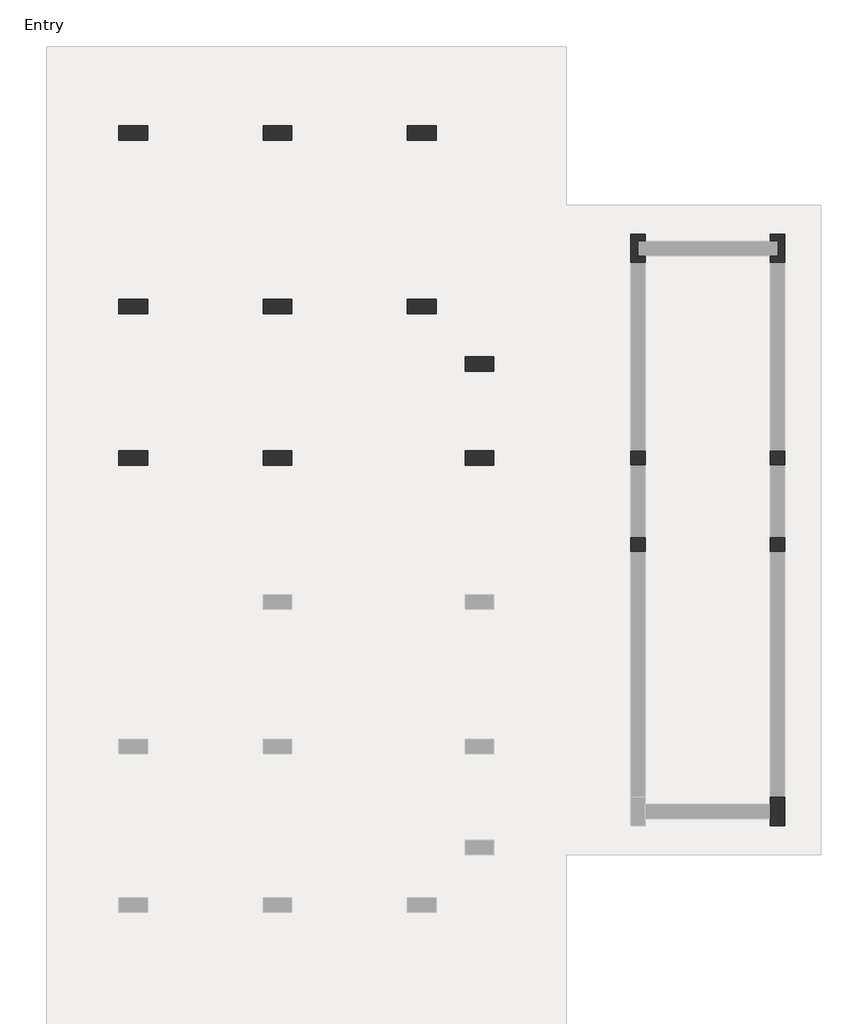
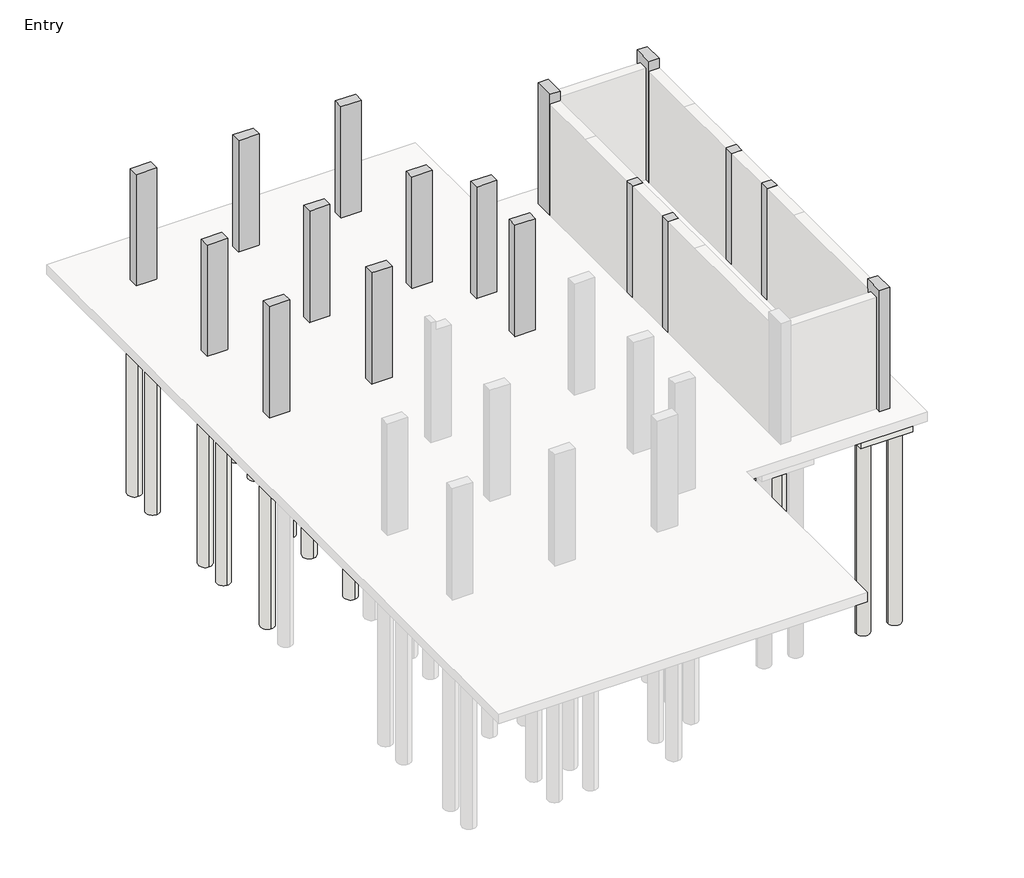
# One storey, part 2 of 2: 52 slabs, 17 columns.
"""IFC4 building model written with IfcOpenShell, lengths in millimetres."""

from ifc_helpers import new_model, si_unit, point, frame, frame_2d, origin, origin_with_axes, place, context, project, spatial, polyline, circle_curve, trimmed, segment, composite_curve, outline, extrude, faceted_brep, element, save

model = new_model("IFC4")

# Units and contexts
model_context = context("Model", 3, world=origin())
ifc_project = project(units=[si_unit("LENGTHUNIT", "METRE", prefix="MILLI")], contexts=[model_context])

# Site, building, storey
site = spatial("IfcSite", under=ifc_project)
building = spatial("IfcBuilding", under=site)
storey = spatial("IfcBuildingStorey", under=building, Name="Entry", Elevation=0.0)

# Columns
placement = place(None, origin())
element("IfcColumn", 1, ObjectType="Concrete-Rectangular-Column : 12 x 24", at=placement, inside=storey, context=model_context, shape_type="SweptSolid", body=[
    extrude(outline(polyline([(-28885.8572388, 23021.6740068), (-28276.2572388, 23021.6740068), (-28276.2572388, 22716.8740068), (-28885.8572388, 22716.8740068), (-28885.8572388, 23021.6740068)])), origin_with_axes(), (0.0, 0.0, 1.0), 3505.2),
])
element("IfcColumn", 2, ObjectType="Concrete-Rectangular-Column : 12 x 24", at=placement, inside=storey, context=model_context, shape_type="SweptSolid", body=[
    extrude(outline(polyline([(-25837.8572388, 23021.6740068), (-25228.2572388, 23021.6740068), (-25228.2572388, 22716.8740068), (-25837.8572388, 22716.8740068), (-25837.8572388, 23021.6740068)])), origin_with_axes(), (0.0, 0.0, 1.0), 3505.2),
])
element("IfcColumn", 3, ObjectType="Concrete-Rectangular-Column : 12 x 24", at=placement, inside=storey, context=model_context, shape_type="SweptSolid", body=[
    extrude(outline(polyline([(-22789.8572388, 23021.6740068), (-22180.2572388, 23021.6740068), (-22180.2572388, 22716.8740068), (-22789.8572388, 22716.8740068), (-22789.8572388, 23021.6740068)])), origin_with_axes(), (0.0, 0.0, 1.0), 3505.2),
])
element("IfcColumn", 4, ObjectType="Concrete-Rectangular-Column : 12 x 24", at=placement, inside=storey, context=model_context, shape_type="SweptSolid", body=[
    extrude(outline(polyline([(-28885.8572388, 19364.0740068), (-28276.2572388, 19364.0740068), (-28276.2572388, 19059.2740068), (-28885.8572388, 19059.2740068), (-28885.8572388, 19364.0740068)])), origin_with_axes(), (0.0, 0.0, 1.0), 3505.2),
])
element("IfcColumn", 5, ObjectType="Concrete-Rectangular-Column : 12 x 24", at=placement, inside=storey, context=model_context, shape_type="SweptSolid", body=[
    extrude(outline(polyline([(-25837.8572388, 19364.0740068), (-25228.2572388, 19364.0740068), (-25228.2572388, 19059.2740068), (-25837.8572388, 19059.2740068), (-25837.8572388, 19364.0740068)])), origin_with_axes(), (0.0, 0.0, 1.0), 3505.2),
])
element("IfcColumn", 6, ObjectType="Concrete-Rectangular-Column : 12 x 24", at=placement, inside=storey, context=model_context, shape_type="SweptSolid", body=[
    extrude(outline(polyline([(-22789.8572388, 19364.0740068), (-22180.2572388, 19364.0740068), (-22180.2572388, 19059.2740068), (-22789.8572388, 19059.2740068), (-22789.8572388, 19364.0740068)])), origin_with_axes(), (0.0, 0.0, 1.0), 3505.2),
])
element("IfcColumn", 7, ObjectType="Concrete-Rectangular-Column : 12 x 24", at=placement, inside=storey, context=model_context, shape_type="SweptSolid", body=[
    extrude(outline(polyline([(-21570.6572388, 18144.8740068), (-20961.0572388, 18144.8740068), (-20961.0572388, 17840.0740068), (-21570.6572388, 17840.0740068), (-21570.6572388, 18144.8740068)])), origin_with_axes(), (0.0, 0.0, 1.0), 3505.2),
])
element("IfcColumn", 8, ObjectType="Concrete-Rectangular-Column : 12 x 24", at=placement, inside=storey, context=model_context, shape_type="SweptSolid", body=[
    extrude(outline(polyline([(-28885.8572388, 16163.6740068), (-28276.2572388, 16163.6740068), (-28276.2572388, 15858.8740068), (-28885.8572388, 15858.8740068), (-28885.8572388, 16163.6740068)])), origin_with_axes(), (0.0, 0.0, 1.0), 3505.2),
])
element("IfcColumn", 9, ObjectType="Concrete-Rectangular-Column : 12 x 24", at=placement, inside=storey, context=model_context, shape_type="Brep", body=[
    faceted_brep([(-25837.8572388, 16163.6740068, 0.0), (-25228.2572388, 16163.6740068, 0.0), (-25228.2572388, 15858.8740068, 0.0), (-25837.8572388, 15858.8740068, 0.0), (-25837.8572388, 16163.6740068, 3505.2), (-25228.2572388, 16163.6740068, 3505.2), (-25228.2572388, 15858.8740068, 3505.2), (-25685.4572388, 15858.8740068, 3505.2), (-25837.8572388, 15858.8740068, 3505.2)], [[[0, 1, 2, 3]], [[1, 0, 4, 5]], [[2, 1, 5, 6]], [[3, 2, 6, 7, 8]], [[0, 3, 8, 4]], [[5, 4, 8, 7, 6]]]),
])
element("IfcColumn", 10, ObjectType="Concrete-Rectangular-Column : 12 x 24", at=placement, inside=storey, context=model_context, shape_type="SweptSolid", body=[
    extrude(outline(polyline([(-21570.6572388, 16163.6740068), (-20961.0572388, 16163.6740068), (-20961.0572388, 15858.8740068), (-21570.6572388, 15858.8740068), (-21570.6572388, 16163.6740068)])), origin_with_axes(), (0.0, 0.0, 1.0), 3505.2),
])
element("IfcColumn", 11, ObjectType="Concrete-Rectangular-Column : 12 x 24", at=placement, inside=storey, context=model_context, shape_type="SweptSolid", body=[
    extrude(outline(polyline([(-17760.6572388, 15858.8740068), (-18065.4572388, 15858.8740068), (-18065.4572388, 16163.6740068), (-17760.6572388, 16163.6740068), (-17760.6572388, 15858.8740068)])), origin_with_axes(), (0.0, 0.0, 1.0), 3505.2),
])
element("IfcColumn", 12, ObjectType="Concrete-Rectangular-Column : 12 x 24", at=placement, inside=storey, context=model_context, shape_type="SweptSolid", body=[
    extrude(outline(polyline([(-15119.0572388, 16163.6740068), (-14814.2572388, 16163.6740068), (-14814.2572388, 15858.8740068), (-15119.0572388, 15858.8740068), (-15119.0572388, 16163.6740068)])), origin_with_axes(), (0.0, 0.0, 1.0), 3505.2),
])
element("IfcColumn", 13, ObjectType="Concrete-Rectangular-Column : 12 x 24", at=placement, inside=storey, context=model_context, shape_type="SweptSolid", body=[
    extrude(outline(polyline([(-17760.6572388, 14030.0740068), (-18065.4572388, 14030.0740068), (-18065.4572388, 14334.8740068), (-17760.6572388, 14334.8740068), (-17760.6572388, 14030.0740068)])), origin_with_axes(), (0.0, 0.0, 1.0), 3505.2),
])
element("IfcColumn", 14, ObjectType="Concrete-Rectangular-Column : 12 x 24", at=placement, inside=storey, context=model_context, shape_type="SweptSolid", body=[
    extrude(outline(polyline([(-15119.0572388, 14334.8740068), (-14814.2572388, 14334.8740068), (-14814.2572388, 14030.0740068), (-15119.0572388, 14030.0740068), (-15119.0572388, 14334.8740068)])), origin_with_axes(), (0.0, 0.0, 1.0), 3505.2),
])
element("IfcColumn", 15, ObjectType="Concrete-Rectangular-Column : 12 x 24", at=placement, inside=storey, context=model_context, shape_type="Brep", body=[
    faceted_brep([(-18065.4572388, 20126.0740068, 0.0), (-18065.4572388, 20735.6740068, 0.0), (-17760.6572388, 20735.6740068, 0.0), (-17760.6572388, 20583.2740068, 0.0), (-17913.0572388, 20583.2740068, 0.0), (-17913.0572388, 20278.4740068, 0.0), (-17760.6572388, 20278.4740068, 0.0), (-17760.6572388, 20126.0740068, 0.0), (-18065.4572388, 20126.0740068, 3505.2), (-18065.4572388, 20126.0740068, 3810.0), (-18065.4572388, 20735.6740068, 3810.0), (-17760.6572388, 20735.6740068, 3810.0), (-17760.6572388, 20126.0740068, 3810.0), (-17760.6572388, 20126.0740068, 3505.2), (-17760.6572388, 20278.4740068, 3505.2), (-17760.6572388, 20583.2740068, 3505.2), (-17913.0572388, 20583.2740068, 3505.2), (-17913.0572388, 20278.4740068, 3505.2)], [[[0, 1, 2, 3, 4, 5, 6, 7]], [[1, 0, 8, 9, 10]], [[2, 1, 10, 11]], [[2, 11, 12, 13, 7, 6, 14, 15, 3]], [[0, 7, 13, 12, 9, 8]], [[10, 9, 12, 11]], [[16, 4, 3, 15]], [[5, 17, 14, 6]], [[4, 16, 17, 5]], [[17, 16, 15, 14]]]),
])
element("IfcColumn", 16, ObjectType="Concrete-Rectangular-Column : 12 x 24", at=placement, inside=storey, context=model_context, shape_type="Brep", body=[
    faceted_brep([(-15119.0572388, 20735.6740068, 0.0), (-14814.2572388, 20735.6740068, 0.0), (-14814.2572388, 20126.0740068, 0.0), (-15119.0572388, 20126.0740068, 0.0), (-15119.0572388, 20278.4740068, 0.0), (-14966.6572388, 20278.4740068, 0.0), (-14966.6572388, 20583.2740068, 0.0), (-15119.0572388, 20583.2740068, 0.0), (-15119.0572388, 20126.0740068, 3810.0), (-15119.0572388, 20735.6740068, 3810.0), (-15119.0572388, 20583.2740068, 3505.2), (-15119.0572388, 20278.4740068, 3505.2), (-15119.0572388, 20126.0740068, 3505.2), (-14814.2572388, 20735.6740068, 3810.0), (-14814.2572388, 20126.0740068, 3810.0), (-14814.2572388, 20126.0740068, 3505.2), (-14966.6572388, 20583.2740068, 3505.2), (-14966.6572388, 20278.4740068, 3505.2)], [[[0, 1, 2, 3, 4, 5, 6, 7]], [[8, 9, 0, 7, 10, 11, 4, 3, 12]], [[1, 0, 9, 13]], [[2, 1, 13, 14, 15]], [[3, 2, 15, 14, 8, 12]], [[9, 8, 14, 13]], [[6, 16, 10, 7]], [[17, 5, 4, 11]], [[16, 17, 11, 10]], [[16, 6, 5, 17]]]),
])
element("IfcColumn", 17, ObjectType="Concrete-Rectangular-Column : 12 x 24", at=placement, inside=storey, context=model_context, shape_type="Brep", body=[
    faceted_brep([(-15119.0572388, 8238.8740068, 0.0), (-15119.0572388, 8391.2740068, 0.0), (-15119.0572388, 8696.0740068, 0.0), (-15119.0572388, 8848.4740068, 0.0), (-14814.2572388, 8848.4740068, 0.0), (-14814.2572388, 8238.8740068, 0.0), (-15119.0572388, 8238.8740068, 3810.0), (-15119.0572388, 8848.4740068, 3810.0), (-15119.0572388, 8848.4740068, 3505.2), (-14814.2572388, 8848.4740068, 3810.0), (-14814.2572388, 8848.4740068, 3505.2), (-14814.2572388, 8238.8740068, 3810.0)], [[[0, 1, 2, 3, 4, 5]], [[6, 7, 8, 3, 2, 1, 0]], [[7, 9, 10, 4, 3, 8]], [[9, 11, 5, 4, 10]], [[11, 6, 0, 5]], [[6, 11, 9, 7]]]),
])

# Slabs
element("IfcSlab", 18, ObjectType="Pile Cap-2 Pile : 31\"x61\"x35\"", at=placement, inside=storey, context=model_context, shape_type="SweptSolid", body=[
    extrude(outline(polyline([(-28987.4572388, 19986.3740068), (-28174.6572388, 19986.3740068), (-28174.6572388, 18436.9740068), (-28987.4572388, 18436.9740068), (-28987.4572388, 19986.3740068)])), frame((0.0, 0.0, -889.0), z_axis=(0.0, 0.0, 1.0), x_axis=(1.0, 0.0, 0.0)), (0.0, 0.0, 1.0), 584.2),
])
element("IfcSlab", 19, ObjectType="Pile Cap-2 Pile : 31\"x61\"x35\"", at=placement, inside=storey, context=model_context, shape_type="SweptSolid", body=[
    extrude(outline(polyline([(-28987.4572388, 23643.9740068), (-28174.6572388, 23643.9740068), (-28174.6572388, 22094.5740068), (-28987.4572388, 22094.5740068), (-28987.4572388, 23643.9740068)])), frame((0.0, 0.0, -889.0), z_axis=(0.0, 0.0, 1.0), x_axis=(1.0, 0.0, 0.0)), (0.0, 0.0, 1.0), 584.2),
])
element("IfcSlab", 20, ObjectType="Pile Cap-2 Pile : 31\"x61\"x35\"", at=placement, inside=storey, context=model_context, shape_type="SweptSolid", body=[
    extrude(outline(polyline([(-28987.4572388, 16785.9740068), (-28174.6572388, 16785.9740068), (-28174.6572388, 15236.5740068), (-28987.4572388, 15236.5740068), (-28987.4572388, 16785.9740068)])), frame((0.0, 0.0, -889.0), z_axis=(0.0, 0.0, 1.0), x_axis=(1.0, 0.0, 0.0)), (0.0, 0.0, 1.0), 584.2),
])
element("IfcSlab", 21, ObjectType="Pile Cap-2 Pile : 31\"x61\"x35\"", at=placement, inside=storey, context=model_context, shape_type="SweptSolid", body=[
    extrude(outline(polyline([(-21672.2572388, 16785.9740068), (-20859.4572388, 16785.9740068), (-20859.4572388, 15236.5740068), (-21672.2572388, 15236.5740068), (-21672.2572388, 16785.9740068)])), frame((0.0, 0.0, -889.0), z_axis=(0.0, 0.0, 1.0), x_axis=(1.0, 0.0, 0.0)), (0.0, 0.0, 1.0), 584.2),
])
element("IfcSlab", 22, ObjectType="Pile Cap-2 Pile : 31\"x61\"x35\"", at=placement, inside=storey, context=model_context, shape_type="SweptSolid", body=[
    extrude(outline(polyline([(-22891.4572388, 19986.3740068), (-22078.6572388, 19986.3740068), (-22078.6572388, 18436.9740068), (-22891.4572388, 18436.9740068), (-22891.4572388, 19986.3740068)])), frame((0.0, 0.0, -889.0), z_axis=(0.0, 0.0, 1.0), x_axis=(1.0, 0.0, 0.0)), (0.0, 0.0, 1.0), 584.2),
])
element("IfcSlab", 23, ObjectType="Pile Cap-2 Pile : 31\"x61\"x35\"", at=placement, inside=storey, context=model_context, shape_type="SweptSolid", body=[
    extrude(outline(polyline([(-22891.4572388, 23643.9740068), (-22078.6572388, 23643.9740068), (-22078.6572388, 22094.5740068), (-22891.4572388, 22094.5740068), (-22891.4572388, 23643.9740068)])), frame((0.0, 0.0, -889.0), z_axis=(0.0, 0.0, 1.0), x_axis=(1.0, 0.0, 0.0)), (0.0, 0.0, 1.0), 584.2),
])
element("IfcSlab", 24, ObjectType="Pile Cap-2 Pile : 31\"x61\"x35\"", at=placement, inside=storey, context=model_context, shape_type="SweptSolid", body=[
    extrude(outline(polyline([(-25939.4572388, 23643.9740068), (-25126.6572388, 23643.9740068), (-25126.6572388, 22094.5740068), (-25939.4572388, 22094.5740068), (-25939.4572388, 23643.9740068)])), frame((0.0, 0.0, -889.0), z_axis=(0.0, 0.0, 1.0), x_axis=(1.0, 0.0, 0.0)), (0.0, 0.0, 1.0), 584.2),
])
element("IfcSlab", 25, ObjectType="Pile Cap-2 Pile : 31\"x61\"x35\"", at=placement, inside=storey, context=model_context, shape_type="SweptSolid", body=[
    extrude(outline(polyline([(-17138.3572388, 20837.2740068), (-17138.3572388, 20024.4740068), (-18687.7572388, 20024.4740068), (-18687.7572388, 20837.2740068), (-17138.3572388, 20837.2740068)])), frame((0.0, 0.0, -889.0), z_axis=(0.0, 0.0, 1.0), x_axis=(1.0, 0.0, 0.0)), (0.0, 0.0, 1.0), 584.2),
])
element("IfcSlab", 26, ObjectType="Pile Cap-2 Pile : 31\"x61\"x35\"", at=placement, inside=storey, context=model_context, shape_type="SweptSolid", body=[
    extrude(outline(polyline([(-14191.9572388, 20837.2740068), (-14191.9572388, 20024.4740068), (-15741.3572388, 20024.4740068), (-15741.3572388, 20837.2740068), (-14191.9572388, 20837.2740068)])), frame((0.0, 0.0, -889.0), z_axis=(0.0, 0.0, 1.0), x_axis=(1.0, 0.0, 0.0)), (0.0, 0.0, 1.0), 584.2),
])
element("IfcSlab", 27, ObjectType="Pile Cap-2 Pile : 31\"x61\"x35\"", at=placement, inside=storey, context=model_context, shape_type="SweptSolid", body=[
    extrude(outline(polyline([(-15373.0572388, 16785.9740068), (-14560.2572388, 16785.9740068), (-14560.2572388, 15236.5740068), (-15373.0572388, 15236.5740068), (-15373.0572388, 16785.9740068)])), frame((0.0, 0.0, -889.0), z_axis=(0.0, 0.0, 1.0), x_axis=(1.0, 0.0, 0.0)), (0.0, 0.0, 1.0), 584.2),
])
element("IfcSlab", 28, ObjectType="Pile Cap-2 Pile : 31\"x61\"x35\"", at=placement, inside=storey, context=model_context, shape_type="SweptSolid", body=[
    extrude(outline(polyline([(-18319.4572388, 16785.9740068), (-17506.6572388, 16785.9740068), (-17506.6572388, 15236.5740068), (-18319.4572388, 15236.5740068), (-18319.4572388, 16785.9740068)])), frame((0.0, 0.0, -889.0), z_axis=(0.0, 0.0, 1.0), x_axis=(1.0, 0.0, 0.0)), (0.0, 0.0, 1.0), 584.2),
])
element("IfcSlab", 29, ObjectType="Pile Cap-2 Pile : 31\"x61\"x35\"", at=placement, inside=storey, context=model_context, shape_type="SweptSolid", body=[
    extrude(outline(polyline([(-17506.6572388, 13407.7740068), (-18319.4572388, 13407.7740068), (-18319.4572388, 14957.1740068), (-17506.6572388, 14957.1740068), (-17506.6572388, 13407.7740068)])), frame((0.0, 0.0, -889.0), z_axis=(0.0, 0.0, 1.0), x_axis=(1.0, 0.0, 0.0)), (0.0, 0.0, 1.0), 584.2),
])
element("IfcSlab", 30, ObjectType="Pile Cap-2 Pile : 31\"x61\"x35\"", at=placement, inside=storey, context=model_context, shape_type="SweptSolid", body=[
    extrude(outline(polyline([(-15373.0572388, 14957.1740068), (-14560.2572388, 14957.1740068), (-14560.2572388, 13407.7740068), (-15373.0572388, 13407.7740068), (-15373.0572388, 14957.1740068)])), frame((0.0, 0.0, -889.0), z_axis=(0.0, 0.0, 1.0), x_axis=(1.0, 0.0, 0.0)), (0.0, 0.0, 1.0), 584.2),
])
element("IfcSlab", 31, ObjectType="Pile Cap-2 Pile : 31\"x61\"x35\"", at=placement, inside=storey, context=model_context, shape_type="SweptSolid", body=[
    extrude(outline(polyline([(-14191.9572388, 8950.0740068), (-14191.9572388, 8137.2740068), (-15741.3572388, 8137.2740068), (-15741.3572388, 8950.0740068), (-14191.9572388, 8950.0740068)])), frame((0.0, 0.0, -889.0), z_axis=(0.0, 0.0, 1.0), x_axis=(1.0, 0.0, 0.0)), (0.0, 0.0, 1.0), 584.2),
])
element("IfcSlab", 32, ObjectType="Pile Cap-2 Pile : 31\"x61\"x35\"", at=placement, inside=storey, context=model_context, shape_type="SweptSolid", body=[
    extrude(outline(polyline([(-21672.2572388, 18767.1740068), (-20859.4572388, 18767.1740068), (-20859.4572388, 17217.7740068), (-21672.2572388, 17217.7740068), (-21672.2572388, 18767.1740068)])), frame((0.0, 0.0, -889.0), z_axis=(0.0, 0.0, 1.0), x_axis=(1.0, 0.0, 0.0)), (0.0, 0.0, 1.0), 584.2),
])
element("IfcSlab", 33, ObjectType="Pile Cap-4 Pile : 72\" x 72\" x35\"", at=placement, inside=storey, context=model_context, shape_type="SweptSolid", body=[
    extrude(outline(polyline([(-26447.4572388, 20126.0740068), (-24618.6572388, 20126.0740068), (-24618.6572388, 18297.2740068), (-26447.4572388, 18297.2740068), (-26447.4572388, 20126.0740068)])), frame((0.0, 0.0, -889.0), z_axis=(0.0, 0.0, 1.0), x_axis=(1.0, 0.0, 0.0)), (0.0, 0.0, 1.0), 584.2),
])
element("IfcSlab", 34, ObjectType="Pile Cap-4 Pile : 72\" x 72\" x35\"", at=placement, inside=storey, context=model_context, shape_type="SweptSolid", body=[
    extrude(outline(polyline([(-26447.4572388, 16925.6740068), (-24618.6572388, 16925.6740068), (-24618.6572388, 15096.8740068), (-26447.4572388, 15096.8740068), (-26447.4572388, 16925.6740068)])), frame((0.0, 0.0, -889.0), z_axis=(0.0, 0.0, 1.0), x_axis=(1.0, 0.0, 0.0)), (0.0, 0.0, 1.0), 584.2),
])
element("IfcSlab", 35, ObjectType="Pile-Steel Pipe : 16\" Diameter", at=placement, inside=storey, context=model_context, shape_type="SweptSolid", body=[
    extrude(outline(composite_curve([segment(trimmed(circle_curve(frame_2d((-26066.4572388, 18678.2740068)), 203.2), [point((-26066.4572388, 18475.0740068))], [point((-26066.4572388, 18881.4740068))], False, "CARTESIAN"), True, "CONTINUOUS"), segment(trimmed(circle_curve(frame_2d((-26066.4572388, 18678.2740068)), 203.2), [point((-26066.4572388, 18881.4740068))], [point((-26066.4572388, 18475.0740068))], False, "CARTESIAN"), True, "CONTINUOUS")], self_intersect=False)), frame((0.0, 0.0, -6985.0), z_axis=(0.0, 0.0, 1.0), x_axis=(1.0, 0.0, 0.0)), (0.0, 0.0, 1.0), 6096.0),
])
element("IfcSlab", 36, ObjectType="Pile-Steel Pipe : 16\" Diameter", at=placement, inside=storey, context=model_context, shape_type="SweptSolid", body=[
    extrude(outline(composite_curve([segment(trimmed(circle_curve(frame_2d((-24999.6572388, 18678.2740068)), 203.2), [point((-24999.6572388, 18475.0740068))], [point((-24999.6572388, 18881.4740068))], False, "CARTESIAN"), True, "CONTINUOUS"), segment(trimmed(circle_curve(frame_2d((-24999.6572388, 18678.2740068)), 203.2), [point((-24999.6572388, 18881.4740068))], [point((-24999.6572388, 18475.0740068))], False, "CARTESIAN"), True, "CONTINUOUS")], self_intersect=False)), frame((0.0, 0.0, -6985.0), z_axis=(0.0, 0.0, 1.0), x_axis=(1.0, 0.0, 0.0)), (0.0, 0.0, 1.0), 6096.0),
])
element("IfcSlab", 37, ObjectType="Pile-Steel Pipe : 16\" Diameter", at=placement, inside=storey, context=model_context, shape_type="SweptSolid", body=[
    extrude(outline(composite_curve([segment(trimmed(circle_curve(frame_2d((-24999.6572388, 19745.0740068)), 203.2), [point((-24999.6572388, 19541.8740068))], [point((-24999.6572388, 19948.2740068))], False, "CARTESIAN"), True, "CONTINUOUS"), segment(trimmed(circle_curve(frame_2d((-24999.6572388, 19745.0740068)), 203.2), [point((-24999.6572388, 19948.2740068))], [point((-24999.6572388, 19541.8740068))], False, "CARTESIAN"), True, "CONTINUOUS")], self_intersect=False)), frame((0.0, 0.0, -6985.0), z_axis=(0.0, 0.0, 1.0), x_axis=(1.0, 0.0, 0.0)), (0.0, 0.0, 1.0), 6096.0),
])
element("IfcSlab", 38, ObjectType="Pile-Steel Pipe : 16\" Diameter", at=placement, inside=storey, context=model_context, shape_type="SweptSolid", body=[
    extrude(outline(composite_curve([segment(trimmed(circle_curve(frame_2d((-26066.4572388, 19745.0740068)), 203.2), [point((-26066.4572388, 19541.8740068))], [point((-26066.4572388, 19948.2740068))], False, "CARTESIAN"), True, "CONTINUOUS"), segment(trimmed(circle_curve(frame_2d((-26066.4572388, 19745.0740068)), 203.2), [point((-26066.4572388, 19948.2740068))], [point((-26066.4572388, 19541.8740068))], False, "CARTESIAN"), True, "CONTINUOUS")], self_intersect=False)), frame((0.0, 0.0, -6985.0), z_axis=(0.0, 0.0, 1.0), x_axis=(1.0, 0.0, 0.0)), (0.0, 0.0, 1.0), 6096.0),
])
element("IfcSlab", 39, ObjectType="Pile-Steel Pipe : 16\" Diameter", at=placement, inside=storey, context=model_context, shape_type="SweptSolid", body=[
    extrude(outline(composite_curve([segment(trimmed(circle_curve(frame_2d((-24999.6572388, 16544.6740068)), 203.2), [point((-24999.6572388, 16341.4740068))], [point((-24999.6572388, 16747.8740068))], False, "CARTESIAN"), True, "CONTINUOUS"), segment(trimmed(circle_curve(frame_2d((-24999.6572388, 16544.6740068)), 203.2), [point((-24999.6572388, 16747.8740068))], [point((-24999.6572388, 16341.4740068))], False, "CARTESIAN"), True, "CONTINUOUS")], self_intersect=False)), frame((0.0, 0.0, -6985.0), z_axis=(0.0, 0.0, 1.0), x_axis=(1.0, 0.0, 0.0)), (0.0, 0.0, 1.0), 6096.0),
])
element("IfcSlab", 40, ObjectType="Pile-Steel Pipe : 16\" Diameter", at=placement, inside=storey, context=model_context, shape_type="SweptSolid", body=[
    extrude(outline(composite_curve([segment(trimmed(circle_curve(frame_2d((-26066.4572388, 16544.6740068)), 203.2), [point((-26066.4572388, 16341.4740068))], [point((-26066.4572388, 16747.8740068))], False, "CARTESIAN"), True, "CONTINUOUS"), segment(trimmed(circle_curve(frame_2d((-26066.4572388, 16544.6740068)), 203.2), [point((-26066.4572388, 16747.8740068))], [point((-26066.4572388, 16341.4740068))], False, "CARTESIAN"), True, "CONTINUOUS")], self_intersect=False)), frame((0.0, 0.0, -6985.0), z_axis=(0.0, 0.0, 1.0), x_axis=(1.0, 0.0, 0.0)), (0.0, 0.0, 1.0), 6096.0),
])
element("IfcSlab", 41, ObjectType="Pile-Steel Pipe : 16\" Diameter", at=placement, inside=storey, context=model_context, shape_type="SweptSolid", body=[
    extrude(outline(composite_curve([segment(trimmed(circle_curve(frame_2d((-28581.0572388, 18741.7740068)), 203.2), [point((-28581.0572388, 18538.5740068))], [point((-28581.0572388, 18944.9740068))], False, "CARTESIAN"), True, "CONTINUOUS"), segment(trimmed(circle_curve(frame_2d((-28581.0572388, 18741.7740068)), 203.2), [point((-28581.0572388, 18944.9740068))], [point((-28581.0572388, 18538.5740068))], False, "CARTESIAN"), True, "CONTINUOUS")], self_intersect=False)), frame((0.0, 0.0, -6985.0), z_axis=(0.0, 0.0, 1.0), x_axis=(1.0, 0.0, 0.0)), (0.0, 0.0, 1.0), 6096.0),
])
element("IfcSlab", 42, ObjectType="Pile-Steel Pipe : 16\" Diameter", at=placement, inside=storey, context=model_context, shape_type="SweptSolid", body=[
    extrude(outline(composite_curve([segment(trimmed(circle_curve(frame_2d((-28581.0572388, 19681.5740068)), 203.2), [point((-28581.0572388, 19478.3740068))], [point((-28581.0572388, 19884.7740068))], False, "CARTESIAN"), True, "CONTINUOUS"), segment(trimmed(circle_curve(frame_2d((-28581.0572388, 19681.5740068)), 203.2), [point((-28581.0572388, 19884.7740068))], [point((-28581.0572388, 19478.3740068))], False, "CARTESIAN"), True, "CONTINUOUS")], self_intersect=False)), frame((0.0, 0.0, -6985.0), z_axis=(0.0, 0.0, 1.0), x_axis=(1.0, 0.0, 0.0)), (0.0, 0.0, 1.0), 6096.0),
])
element("IfcSlab", 43, ObjectType="Pile-Steel Pipe : 16\" Diameter", at=placement, inside=storey, context=model_context, shape_type="SweptSolid", body=[
    extrude(outline(composite_curve([segment(trimmed(circle_curve(frame_2d((-28581.0572388, 22399.3740068)), 203.2), [point((-28581.0572388, 22196.1740068))], [point((-28581.0572388, 22602.5740068))], False, "CARTESIAN"), True, "CONTINUOUS"), segment(trimmed(circle_curve(frame_2d((-28581.0572388, 22399.3740068)), 203.2), [point((-28581.0572388, 22602.5740068))], [point((-28581.0572388, 22196.1740068))], False, "CARTESIAN"), True, "CONTINUOUS")], self_intersect=False)), frame((0.0, 0.0, -6985.0), z_axis=(0.0, 0.0, 1.0), x_axis=(1.0, 0.0, 0.0)), (0.0, 0.0, 1.0), 6096.0),
])
element("IfcSlab", 44, ObjectType="Pile-Steel Pipe : 16\" Diameter", at=placement, inside=storey, context=model_context, shape_type="SweptSolid", body=[
    extrude(outline(composite_curve([segment(trimmed(circle_curve(frame_2d((-28581.0572388, 23339.1740068)), 203.2), [point((-28581.0572388, 23135.9740068))], [point((-28581.0572388, 23542.3740068))], False, "CARTESIAN"), True, "CONTINUOUS"), segment(trimmed(circle_curve(frame_2d((-28581.0572388, 23339.1740068)), 203.2), [point((-28581.0572388, 23542.3740068))], [point((-28581.0572388, 23135.9740068))], False, "CARTESIAN"), True, "CONTINUOUS")], self_intersect=False)), frame((0.0, 0.0, -6985.0), z_axis=(0.0, 0.0, 1.0), x_axis=(1.0, 0.0, 0.0)), (0.0, 0.0, 1.0), 6096.0),
])
element("IfcSlab", 45, ObjectType="Pile-Steel Pipe : 16\" Diameter", at=placement, inside=storey, context=model_context, shape_type="SweptSolid", body=[
    extrude(outline(composite_curve([segment(trimmed(circle_curve(frame_2d((-28581.0572388, 16481.1740068)), 203.2), [point((-28581.0572388, 16277.9740068))], [point((-28581.0572388, 16684.3740068))], False, "CARTESIAN"), True, "CONTINUOUS"), segment(trimmed(circle_curve(frame_2d((-28581.0572388, 16481.1740068)), 203.2), [point((-28581.0572388, 16684.3740068))], [point((-28581.0572388, 16277.9740068))], False, "CARTESIAN"), True, "CONTINUOUS")], self_intersect=False)), frame((0.0, 0.0, -6985.0), z_axis=(0.0, 0.0, 1.0), x_axis=(1.0, 0.0, 0.0)), (0.0, 0.0, 1.0), 6096.0),
])
element("IfcSlab", 46, ObjectType="Pile-Steel Pipe : 16\" Diameter", at=placement, inside=storey, context=model_context, shape_type="SweptSolid", body=[
    extrude(outline(composite_curve([segment(trimmed(circle_curve(frame_2d((-21265.8572388, 15541.3740068)), 203.2), [point((-21265.8572388, 15338.1740068))], [point((-21265.8572388, 15744.5740068))], False, "CARTESIAN"), True, "CONTINUOUS"), segment(trimmed(circle_curve(frame_2d((-21265.8572388, 15541.3740068)), 203.2), [point((-21265.8572388, 15744.5740068))], [point((-21265.8572388, 15338.1740068))], False, "CARTESIAN"), True, "CONTINUOUS")], self_intersect=False)), frame((0.0, 0.0, -6985.0), z_axis=(0.0, 0.0, 1.0), x_axis=(1.0, 0.0, 0.0)), (0.0, 0.0, 1.0), 6096.0),
])
element("IfcSlab", 47, ObjectType="Pile-Steel Pipe : 16\" Diameter", at=placement, inside=storey, context=model_context, shape_type="SweptSolid", body=[
    extrude(outline(composite_curve([segment(trimmed(circle_curve(frame_2d((-21265.8572388, 16481.1740068)), 203.2), [point((-21265.8572388, 16277.9740068))], [point((-21265.8572388, 16684.3740068))], False, "CARTESIAN"), True, "CONTINUOUS"), segment(trimmed(circle_curve(frame_2d((-21265.8572388, 16481.1740068)), 203.2), [point((-21265.8572388, 16684.3740068))], [point((-21265.8572388, 16277.9740068))], False, "CARTESIAN"), True, "CONTINUOUS")], self_intersect=False)), frame((0.0, 0.0, -6985.0), z_axis=(0.0, 0.0, 1.0), x_axis=(1.0, 0.0, 0.0)), (0.0, 0.0, 1.0), 6096.0),
])
element("IfcSlab", 48, ObjectType="Pile-Steel Pipe : 16\" Diameter", at=placement, inside=storey, context=model_context, shape_type="SweptSolid", body=[
    extrude(outline(composite_curve([segment(trimmed(circle_curve(frame_2d((-22485.0572388, 18741.7740068)), 203.2), [point((-22485.0572388, 18538.5740068))], [point((-22485.0572388, 18944.9740068))], False, "CARTESIAN"), True, "CONTINUOUS"), segment(trimmed(circle_curve(frame_2d((-22485.0572388, 18741.7740068)), 203.2), [point((-22485.0572388, 18944.9740068))], [point((-22485.0572388, 18538.5740068))], False, "CARTESIAN"), True, "CONTINUOUS")], self_intersect=False)), frame((0.0, 0.0, -6985.0), z_axis=(0.0, 0.0, 1.0), x_axis=(1.0, 0.0, 0.0)), (0.0, 0.0, 1.0), 6096.0),
])
element("IfcSlab", 49, ObjectType="Pile-Steel Pipe : 16\" Diameter", at=placement, inside=storey, context=model_context, shape_type="SweptSolid", body=[
    extrude(outline(composite_curve([segment(trimmed(circle_curve(frame_2d((-22485.0572388, 19681.5740068)), 203.2), [point((-22485.0572388, 19478.3740068))], [point((-22485.0572388, 19884.7740068))], False, "CARTESIAN"), True, "CONTINUOUS"), segment(trimmed(circle_curve(frame_2d((-22485.0572388, 19681.5740068)), 203.2), [point((-22485.0572388, 19884.7740068))], [point((-22485.0572388, 19478.3740068))], False, "CARTESIAN"), True, "CONTINUOUS")], self_intersect=False)), frame((0.0, 0.0, -6985.0), z_axis=(0.0, 0.0, 1.0), x_axis=(1.0, 0.0, 0.0)), (0.0, 0.0, 1.0), 6096.0),
])
element("IfcSlab", 50, ObjectType="Pile-Steel Pipe : 16\" Diameter", at=placement, inside=storey, context=model_context, shape_type="SweptSolid", body=[
    extrude(outline(composite_curve([segment(trimmed(circle_curve(frame_2d((-22485.0572388, 22399.3740068)), 203.2), [point((-22485.0572388, 22196.1740068))], [point((-22485.0572388, 22602.5740068))], False, "CARTESIAN"), True, "CONTINUOUS"), segment(trimmed(circle_curve(frame_2d((-22485.0572388, 22399.3740068)), 203.2), [point((-22485.0572388, 22602.5740068))], [point((-22485.0572388, 22196.1740068))], False, "CARTESIAN"), True, "CONTINUOUS")], self_intersect=False)), frame((0.0, 0.0, -6985.0), z_axis=(0.0, 0.0, 1.0), x_axis=(1.0, 0.0, 0.0)), (0.0, 0.0, 1.0), 6096.0),
])
element("IfcSlab", 51, ObjectType="Pile-Steel Pipe : 16\" Diameter", at=placement, inside=storey, context=model_context, shape_type="SweptSolid", body=[
    extrude(outline(composite_curve([segment(trimmed(circle_curve(frame_2d((-22485.0572388, 23339.1740068)), 203.2), [point((-22485.0572388, 23135.9740068))], [point((-22485.0572388, 23542.3740068))], False, "CARTESIAN"), True, "CONTINUOUS"), segment(trimmed(circle_curve(frame_2d((-22485.0572388, 23339.1740068)), 203.2), [point((-22485.0572388, 23542.3740068))], [point((-22485.0572388, 23135.9740068))], False, "CARTESIAN"), True, "CONTINUOUS")], self_intersect=False)), frame((0.0, 0.0, -6985.0), z_axis=(0.0, 0.0, 1.0), x_axis=(1.0, 0.0, 0.0)), (0.0, 0.0, 1.0), 6096.0),
])
element("IfcSlab", 52, ObjectType="Pile-Steel Pipe : 16\" Diameter", at=placement, inside=storey, context=model_context, shape_type="SweptSolid", body=[
    extrude(outline(composite_curve([segment(trimmed(circle_curve(frame_2d((-25533.0572388, 22399.3740068)), 203.2), [point((-25533.0572388, 22196.1740068))], [point((-25533.0572388, 22602.5740068))], False, "CARTESIAN"), True, "CONTINUOUS"), segment(trimmed(circle_curve(frame_2d((-25533.0572388, 22399.3740068)), 203.2), [point((-25533.0572388, 22602.5740068))], [point((-25533.0572388, 22196.1740068))], False, "CARTESIAN"), True, "CONTINUOUS")], self_intersect=False)), frame((0.0, 0.0, -6985.0), z_axis=(0.0, 0.0, 1.0), x_axis=(1.0, 0.0, 0.0)), (0.0, 0.0, 1.0), 6096.0),
])
element("IfcSlab", 53, ObjectType="Pile-Steel Pipe : 16\" Diameter", at=placement, inside=storey, context=model_context, shape_type="SweptSolid", body=[
    extrude(outline(composite_curve([segment(trimmed(circle_curve(frame_2d((-25533.0572388, 23339.1740068)), 203.2), [point((-25533.0572388, 23135.9740068))], [point((-25533.0572388, 23542.3740068))], False, "CARTESIAN"), True, "CONTINUOUS"), segment(trimmed(circle_curve(frame_2d((-25533.0572388, 23339.1740068)), 203.2), [point((-25533.0572388, 23542.3740068))], [point((-25533.0572388, 23135.9740068))], False, "CARTESIAN"), True, "CONTINUOUS")], self_intersect=False)), frame((0.0, 0.0, -6985.0), z_axis=(0.0, 0.0, 1.0), x_axis=(1.0, 0.0, 0.0)), (0.0, 0.0, 1.0), 6096.0),
])
element("IfcSlab", 54, ObjectType="Pile-Steel Pipe : 16\" Diameter", at=placement, inside=storey, context=model_context, shape_type="SweptSolid", body=[
    extrude(outline(composite_curve([segment(trimmed(circle_curve(frame_2d((-18382.9572388, 20430.8740068)), 203.2), [point((-18586.1572388, 20430.8740068))], [point((-18179.7572388, 20430.8740068))], False, "CARTESIAN"), True, "CONTINUOUS"), segment(trimmed(circle_curve(frame_2d((-18382.9572388, 20430.8740068)), 203.2), [point((-18179.7572388, 20430.8740068))], [point((-18586.1572388, 20430.8740068))], False, "CARTESIAN"), True, "CONTINUOUS")], self_intersect=False)), frame((0.0, 0.0, -6985.0), z_axis=(0.0, 0.0, 1.0), x_axis=(1.0, 0.0, 0.0)), (0.0, 0.0, 1.0), 6096.0),
])
element("IfcSlab", 55, ObjectType="Pile-Steel Pipe : 16\" Diameter", at=placement, inside=storey, context=model_context, shape_type="SweptSolid", body=[
    extrude(outline(composite_curve([segment(trimmed(circle_curve(frame_2d((-17443.1572388, 20430.8740068)), 203.2), [point((-17646.3572388, 20430.8740068))], [point((-17239.9572388, 20430.8740068))], False, "CARTESIAN"), True, "CONTINUOUS"), segment(trimmed(circle_curve(frame_2d((-17443.1572388, 20430.8740068)), 203.2), [point((-17239.9572388, 20430.8740068))], [point((-17646.3572388, 20430.8740068))], False, "CARTESIAN"), True, "CONTINUOUS")], self_intersect=False)), frame((0.0, 0.0, -6985.0), z_axis=(0.0, 0.0, 1.0), x_axis=(1.0, 0.0, 0.0)), (0.0, 0.0, 1.0), 6096.0),
])
element("IfcSlab", 56, ObjectType="Pile-Steel Pipe : 16\" Diameter", at=placement, inside=storey, context=model_context, shape_type="SweptSolid", body=[
    extrude(outline(composite_curve([segment(trimmed(circle_curve(frame_2d((-15436.5572388, 20430.8740068)), 203.2), [point((-15639.7572388, 20430.8740068))], [point((-15233.3572388, 20430.8740068))], False, "CARTESIAN"), True, "CONTINUOUS"), segment(trimmed(circle_curve(frame_2d((-15436.5572388, 20430.8740068)), 203.2), [point((-15233.3572388, 20430.8740068))], [point((-15639.7572388, 20430.8740068))], False, "CARTESIAN"), True, "CONTINUOUS")], self_intersect=False)), frame((0.0, 0.0, -6985.0), z_axis=(0.0, 0.0, 1.0), x_axis=(1.0, 0.0, 0.0)), (0.0, 0.0, 1.0), 6096.0),
])
element("IfcSlab", 57, ObjectType="Pile-Steel Pipe : 16\" Diameter", at=placement, inside=storey, context=model_context, shape_type="SweptSolid", body=[
    extrude(outline(composite_curve([segment(trimmed(circle_curve(frame_2d((-14496.7572388, 20430.8740068)), 203.2), [point((-14699.9572388, 20430.8740068))], [point((-14293.5572388, 20430.8740068))], False, "CARTESIAN"), True, "CONTINUOUS"), segment(trimmed(circle_curve(frame_2d((-14496.7572388, 20430.8740068)), 203.2), [point((-14293.5572388, 20430.8740068))], [point((-14699.9572388, 20430.8740068))], False, "CARTESIAN"), True, "CONTINUOUS")], self_intersect=False)), frame((0.0, 0.0, -6985.0), z_axis=(0.0, 0.0, 1.0), x_axis=(1.0, 0.0, 0.0)), (0.0, 0.0, 1.0), 6096.0),
])
element("IfcSlab", 58, ObjectType="Pile-Steel Pipe : 16\" Diameter", at=placement, inside=storey, context=model_context, shape_type="SweptSolid", body=[
    extrude(outline(composite_curve([segment(trimmed(circle_curve(frame_2d((-14966.6572388, 15541.3740068)), 203.2), [point((-14966.6572388, 15338.1740068))], [point((-14966.6572388, 15744.5740068))], False, "CARTESIAN"), True, "CONTINUOUS"), segment(trimmed(circle_curve(frame_2d((-14966.6572388, 15541.3740068)), 203.2), [point((-14966.6572388, 15744.5740068))], [point((-14966.6572388, 15338.1740068))], False, "CARTESIAN"), True, "CONTINUOUS")], self_intersect=False)), frame((0.0, 0.0, -6985.0), z_axis=(0.0, 0.0, 1.0), x_axis=(1.0, 0.0, 0.0)), (0.0, 0.0, 1.0), 6096.0),
])
element("IfcSlab", 59, ObjectType="Pile-Steel Pipe : 16\" Diameter", at=placement, inside=storey, context=model_context, shape_type="SweptSolid", body=[
    extrude(outline(composite_curve([segment(trimmed(circle_curve(frame_2d((-14966.6572388, 16481.1740068)), 203.2), [point((-14966.6572388, 16277.9740068))], [point((-14966.6572388, 16684.3740068))], False, "CARTESIAN"), True, "CONTINUOUS"), segment(trimmed(circle_curve(frame_2d((-14966.6572388, 16481.1740068)), 203.2), [point((-14966.6572388, 16684.3740068))], [point((-14966.6572388, 16277.9740068))], False, "CARTESIAN"), True, "CONTINUOUS")], self_intersect=False)), frame((0.0, 0.0, -6985.0), z_axis=(0.0, 0.0, 1.0), x_axis=(1.0, 0.0, 0.0)), (0.0, 0.0, 1.0), 6096.0),
])
element("IfcSlab", 60, ObjectType="Pile-Steel Pipe : 16\" Diameter", at=placement, inside=storey, context=model_context, shape_type="SweptSolid", body=[
    extrude(outline(composite_curve([segment(trimmed(circle_curve(frame_2d((-17913.0572388, 15541.3740068)), 203.2), [point((-17913.0572388, 15338.1740068))], [point((-17913.0572388, 15744.5740068))], False, "CARTESIAN"), True, "CONTINUOUS"), segment(trimmed(circle_curve(frame_2d((-17913.0572388, 15541.3740068)), 203.2), [point((-17913.0572388, 15744.5740068))], [point((-17913.0572388, 15338.1740068))], False, "CARTESIAN"), True, "CONTINUOUS")], self_intersect=False)), frame((0.0, 0.0, -6985.0), z_axis=(0.0, 0.0, 1.0), x_axis=(1.0, 0.0, 0.0)), (0.0, 0.0, 1.0), 6096.0),
])
element("IfcSlab", 61, ObjectType="Pile-Steel Pipe : 16\" Diameter", at=placement, inside=storey, context=model_context, shape_type="SweptSolid", body=[
    extrude(outline(composite_curve([segment(trimmed(circle_curve(frame_2d((-17913.0572388, 16481.1740068)), 203.2), [point((-17913.0572388, 16277.9740068))], [point((-17913.0572388, 16684.3740068))], False, "CARTESIAN"), True, "CONTINUOUS"), segment(trimmed(circle_curve(frame_2d((-17913.0572388, 16481.1740068)), 203.2), [point((-17913.0572388, 16684.3740068))], [point((-17913.0572388, 16277.9740068))], False, "CARTESIAN"), True, "CONTINUOUS")], self_intersect=False)), frame((0.0, 0.0, -6985.0), z_axis=(0.0, 0.0, 1.0), x_axis=(1.0, 0.0, 0.0)), (0.0, 0.0, 1.0), 6096.0),
])
element("IfcSlab", 62, ObjectType="Pile-Steel Pipe : 16\" Diameter", at=placement, inside=storey, context=model_context, shape_type="SweptSolid", body=[
    extrude(outline(composite_curve([segment(trimmed(circle_curve(frame_2d((-17913.0572388, 14652.3740068)), 203.2), [point((-17913.0572388, 14855.5740068))], [point((-17913.0572388, 14449.1740068))], False, "CARTESIAN"), True, "CONTINUOUS"), segment(trimmed(circle_curve(frame_2d((-17913.0572388, 14652.3740068)), 203.2), [point((-17913.0572388, 14449.1740068))], [point((-17913.0572388, 14855.5740068))], False, "CARTESIAN"), True, "CONTINUOUS")], self_intersect=False)), frame((0.0, 0.0, -6985.0), z_axis=(0.0, 0.0, 1.0), x_axis=(1.0, 0.0, 0.0)), (0.0, 0.0, 1.0), 6096.0),
])
element("IfcSlab", 63, ObjectType="Pile-Steel Pipe : 16\" Diameter", at=placement, inside=storey, context=model_context, shape_type="SweptSolid", body=[
    extrude(outline(composite_curve([segment(trimmed(circle_curve(frame_2d((-17913.0572388, 13712.5740068)), 203.2), [point((-17913.0572388, 13915.7740068))], [point((-17913.0572388, 13509.3740068))], False, "CARTESIAN"), True, "CONTINUOUS"), segment(trimmed(circle_curve(frame_2d((-17913.0572388, 13712.5740068)), 203.2), [point((-17913.0572388, 13509.3740068))], [point((-17913.0572388, 13915.7740068))], False, "CARTESIAN"), True, "CONTINUOUS")], self_intersect=False)), frame((0.0, 0.0, -6985.0), z_axis=(0.0, 0.0, 1.0), x_axis=(1.0, 0.0, 0.0)), (0.0, 0.0, 1.0), 6096.0),
])
element("IfcSlab", 64, ObjectType="Pile-Steel Pipe : 16\" Diameter", at=placement, inside=storey, context=model_context, shape_type="SweptSolid", body=[
    extrude(outline(composite_curve([segment(trimmed(circle_curve(frame_2d((-14966.6572388, 13712.5740068)), 203.2), [point((-14966.6572388, 13509.3740068))], [point((-14966.6572388, 13915.7740068))], False, "CARTESIAN"), True, "CONTINUOUS"), segment(trimmed(circle_curve(frame_2d((-14966.6572388, 13712.5740068)), 203.2), [point((-14966.6572388, 13915.7740068))], [point((-14966.6572388, 13509.3740068))], False, "CARTESIAN"), True, "CONTINUOUS")], self_intersect=False)), frame((0.0, 0.0, -6985.0), z_axis=(0.0, 0.0, 1.0), x_axis=(1.0, 0.0, 0.0)), (0.0, 0.0, 1.0), 6096.0),
])
element("IfcSlab", 65, ObjectType="Pile-Steel Pipe : 16\" Diameter", at=placement, inside=storey, context=model_context, shape_type="SweptSolid", body=[
    extrude(outline(composite_curve([segment(trimmed(circle_curve(frame_2d((-14966.6572388, 14652.3740068)), 203.2), [point((-14966.6572388, 14449.1740068))], [point((-14966.6572388, 14855.5740068))], False, "CARTESIAN"), True, "CONTINUOUS"), segment(trimmed(circle_curve(frame_2d((-14966.6572388, 14652.3740068)), 203.2), [point((-14966.6572388, 14855.5740068))], [point((-14966.6572388, 14449.1740068))], False, "CARTESIAN"), True, "CONTINUOUS")], self_intersect=False)), frame((0.0, 0.0, -6985.0), z_axis=(0.0, 0.0, 1.0), x_axis=(1.0, 0.0, 0.0)), (0.0, 0.0, 1.0), 6096.0),
])
element("IfcSlab", 66, ObjectType="Pile-Steel Pipe : 16\" Diameter", at=placement, inside=storey, context=model_context, shape_type="SweptSolid", body=[
    extrude(outline(composite_curve([segment(trimmed(circle_curve(frame_2d((-15436.5572388, 8543.6740068)), 203.2), [point((-15639.7572388, 8543.6740068))], [point((-15233.3572388, 8543.6740068))], False, "CARTESIAN"), True, "CONTINUOUS"), segment(trimmed(circle_curve(frame_2d((-15436.5572388, 8543.6740068)), 203.2), [point((-15233.3572388, 8543.6740068))], [point((-15639.7572388, 8543.6740068))], False, "CARTESIAN"), True, "CONTINUOUS")], self_intersect=False)), frame((0.0, 0.0, -6985.0), z_axis=(0.0, 0.0, 1.0), x_axis=(1.0, 0.0, 0.0)), (0.0, 0.0, 1.0), 6096.0),
])
element("IfcSlab", 67, ObjectType="Pile-Steel Pipe : 16\" Diameter", at=placement, inside=storey, context=model_context, shape_type="SweptSolid", body=[
    extrude(outline(composite_curve([segment(trimmed(circle_curve(frame_2d((-14496.7572388, 8543.6740068)), 203.2), [point((-14699.9572388, 8543.6740068))], [point((-14293.5572388, 8543.6740068))], False, "CARTESIAN"), True, "CONTINUOUS"), segment(trimmed(circle_curve(frame_2d((-14496.7572388, 8543.6740068)), 203.2), [point((-14293.5572388, 8543.6740068))], [point((-14699.9572388, 8543.6740068))], False, "CARTESIAN"), True, "CONTINUOUS")], self_intersect=False)), frame((0.0, 0.0, -6985.0), z_axis=(0.0, 0.0, 1.0), x_axis=(1.0, 0.0, 0.0)), (0.0, 0.0, 1.0), 6096.0),
])
element("IfcSlab", 68, ObjectType="Pile-Steel Pipe : 16\" Diameter", at=placement, inside=storey, context=model_context, shape_type="SweptSolid", body=[
    extrude(outline(composite_curve([segment(trimmed(circle_curve(frame_2d((-21265.8572388, 17522.5740068)), 203.2), [point((-21265.8572388, 17319.3740068))], [point((-21265.8572388, 17725.7740068))], False, "CARTESIAN"), True, "CONTINUOUS"), segment(trimmed(circle_curve(frame_2d((-21265.8572388, 17522.5740068)), 203.2), [point((-21265.8572388, 17725.7740068))], [point((-21265.8572388, 17319.3740068))], False, "CARTESIAN"), True, "CONTINUOUS")], self_intersect=False)), frame((0.0, 0.0, -6985.0), z_axis=(0.0, 0.0, 1.0), x_axis=(1.0, 0.0, 0.0)), (0.0, 0.0, 1.0), 6096.0),
])
element("IfcSlab", 69, ObjectType="Pile-Steel Pipe : 16\" Diameter", at=placement, inside=storey, context=model_context, shape_type="SweptSolid", body=[
    extrude(outline(composite_curve([segment(trimmed(circle_curve(frame_2d((-21265.8572388, 18462.3740068)), 203.2), [point((-21265.8572388, 18259.1740068))], [point((-21265.8572388, 18665.5740068))], False, "CARTESIAN"), True, "CONTINUOUS"), segment(trimmed(circle_curve(frame_2d((-21265.8572388, 18462.3740068)), 203.2), [point((-21265.8572388, 18665.5740068))], [point((-21265.8572388, 18259.1740068))], False, "CARTESIAN"), True, "CONTINUOUS")], self_intersect=False)), frame((0.0, 0.0, -6985.0), z_axis=(0.0, 0.0, 1.0), x_axis=(1.0, 0.0, 0.0)), (0.0, 0.0, 1.0), 6096.0),
])

save(model, "model.ifc")
